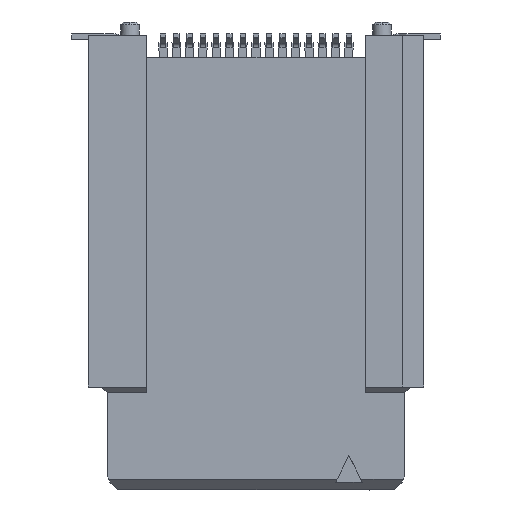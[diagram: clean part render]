
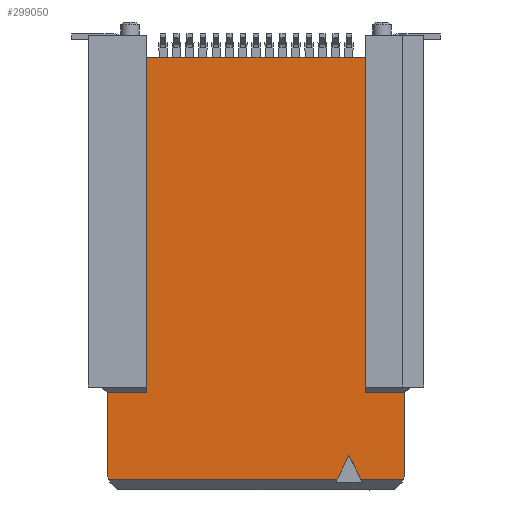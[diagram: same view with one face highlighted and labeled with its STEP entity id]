
A CAD part, front view. The second image highlights one B-rep face of the part: STEP entity #299050.
In plain terms, the highlighted planar face has unit normal (0, -1, 0).
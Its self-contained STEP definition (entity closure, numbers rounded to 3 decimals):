
#3000=CARTESIAN_POINT('',(8.88,-1.54,
-5.662));
#3010=DIRECTION('',(-1.,0.,0.));
#3020=VECTOR('',#3010,1.);
#3030=LINE('',#3000,#3020);
#3040=CARTESIAN_POINT('',(8.33,-1.54,
-5.662));
#3050=VERTEX_POINT('',#3040);
#3060=CARTESIAN_POINT('',(5.2,-1.54,
-5.662));
#3070=VERTEX_POINT('',#3060);
#3080=EDGE_CURVE('',#3050,#3070,#3030,.T.);
#16470=CARTESIAN_POINT('',(5.2,-1.54,
-6.412));
#16480=DIRECTION('',(0.,0.,1.));
#16490=VECTOR('',#16480,1.);
#16500=LINE('',#16470,#16490);
#16510=CARTESIAN_POINT('',(5.2,-1.54,
-7.162));
#16520=VERTEX_POINT('',#16510);
#16530=EDGE_CURVE('',#16520,#3070,#16500,.T.);
#87340=CARTESIAN_POINT('',(8.48,-1.54,
-5.722));
#87350=VERTEX_POINT('',#87340);
#87380=CARTESIAN_POINT('',(1.,-1.54,
-2.73));
#87390=DIRECTION('',(0.928,0.,
-0.371));
#87400=VECTOR('',#87390,1.);
#87410=LINE('',#87380,#87400);
#87420=EDGE_CURVE('',#3050,#87350,#87410,.T.);
#96580=CARTESIAN_POINT('',(7.58,-1.54,
-7.772));
#96590=VERTEX_POINT('',#96580);
#96620=CARTESIAN_POINT('',(0.,-1.54,
-11.562));
#96630=DIRECTION('',(-0.894,0.,
-0.447));
#96640=VECTOR('',#96630,1.);
#96650=LINE('',#96620,#96640);
#96660=CARTESIAN_POINT('',(8.48,-1.54,
-7.322));
#96670=VERTEX_POINT('',#96660);
#96680=EDGE_CURVE('',#96670,#96590,#96650,.T.);
#108050=CARTESIAN_POINT('',(-7.43,-1.54,
-7.162));
#108060=VERTEX_POINT('',#108050);
#108090=CARTESIAN_POINT('',(-7.43,-1.54,
0.));
#108100=DIRECTION('',(0.,0.,-1.));
#108110=VECTOR('',#108100,1.);
#108120=LINE('',#108090,#108110);
#108130=CARTESIAN_POINT('',(-7.43,-1.54,
-15.382));
#108140=VERTEX_POINT('',#108130);
#108150=EDGE_CURVE('',#108060,#108140,#108120,.T.);
#206690=CARTESIAN_POINT('',(8.48,-1.54,
-8.222));
#206700=VERTEX_POINT('',#206690);
#206730=CARTESIAN_POINT('',(0.,-1.54,
-3.982));
#206740=DIRECTION('',(0.894,0.,
-0.447));
#206750=VECTOR('',#206740,1.);
#206760=LINE('',#206730,#206750);
#206770=EDGE_CURVE('',#96590,#206700,#206760,.T.);
#207570=CARTESIAN_POINT('',(-6.43,-1.54,
-7.162));
#207580=DIRECTION('',(1.,0.,0.));
#207590=VECTOR('',#207580,1.);
#207600=LINE('',#207570,#207590);
#207610=EDGE_CURVE('',#108060,#16520,#207600,.T.);
#296280=CARTESIAN_POINT('',(5.2,-1.54,
-16.882));
#296290=VERTEX_POINT('',#296280);
#297280=CARTESIAN_POINT('',(5.2,-1.54,
-15.382));
#297290=VERTEX_POINT('',#297280);
#297320=CARTESIAN_POINT('',(5.2,-1.54,
-16.132));
#297330=DIRECTION('',(0.,0.,-1.));
#297340=VECTOR('',#297330,1.);
#297350=LINE('',#297320,#297340);
#297360=EDGE_CURVE('',#297290,#296290,#297350,.T.);
#298240=CARTESIAN_POINT('',(8.33,-1.54,
-16.882));
#298250=VERTEX_POINT('',#298240);
#298280=CARTESIAN_POINT('',(1.,-1.54,
-19.814));
#298290=DIRECTION('',(0.928,0.,
0.371));
#298300=VECTOR('',#298290,1.);
#298310=LINE('',#298280,#298300);
#298320=CARTESIAN_POINT('',(8.48,-1.54,
-16.822));
#298330=VERTEX_POINT('',#298320);
#298340=EDGE_CURVE('',#298250,#298330,#298310,.T.);
#298610=CARTESIAN_POINT('',(8.88,-1.54,
-16.882));
#298620=DIRECTION('',(-1.,0.,0.));
#298630=VECTOR('',#298620,1.);
#298640=LINE('',#298610,#298630);
#298650=EDGE_CURVE('',#298250,#296290,#298640,.T.);
#298700=CARTESIAN_POINT('',(-2.93,-1.54,
2.478));
#298710=DIRECTION('',(0.,-1.,0.));
#298720=DIRECTION('',(1.,0.,0.));
#298730=AXIS2_PLACEMENT_3D('',#298700,#298710,#298720);
#298740=PLANE('',#298730);
#298750=ORIENTED_EDGE('',*,*,#108150,.T.);
#298760=ORIENTED_EDGE('',*,*,#207610,.F.);
#298770=ORIENTED_EDGE('',*,*,#16530,.F.);
#298780=ORIENTED_EDGE('',*,*,#3080,.T.);
#298790=ORIENTED_EDGE('',*,*,#87420,.F.);
#298800=CARTESIAN_POINT('',(8.48,-1.54,
-29.452));
#298810=DIRECTION('',(0.,0.,-1.));
#298820=VECTOR('',#298810,1.);
#298830=LINE('',#298800,#298820);
#298840=EDGE_CURVE('',#87350,#96670,#298830,.T.);
#298850=ORIENTED_EDGE('',*,*,#298840,.F.);
#298860=ORIENTED_EDGE('',*,*,#96680,.F.);
#298870=ORIENTED_EDGE('',*,*,#206770,.F.);
#298880=CARTESIAN_POINT('',(8.48,-1.54,
-1.952));
#298890=DIRECTION('',(0.,0.,-1.));
#298900=VECTOR('',#298890,1.);
#298910=LINE('',#298880,#298900);
#298920=EDGE_CURVE('',#206700,#298330,#298910,.T.);
#298930=ORIENTED_EDGE('',*,*,#298920,.F.);
#298940=ORIENTED_EDGE('',*,*,#298340,.T.);
#298950=ORIENTED_EDGE('',*,*,#298650,.F.);
#298960=ORIENTED_EDGE('',*,*,#297360,.T.);
#298970=CARTESIAN_POINT('',(6.,-1.54,
-15.382));
#298980=DIRECTION('',(-1.,0.,0.));
#298990=VECTOR('',#298980,1.);
#299000=LINE('',#298970,#298990);
#299010=EDGE_CURVE('',#297290,#108140,#299000,.T.);
#299020=ORIENTED_EDGE('',*,*,#299010,.F.);
#299030=EDGE_LOOP('',(#299020,#298960,#298950,#298940,#298930,#298870,
#298860,#298850,#298790,#298780,#298770,#298760,#298750));
#299040=FACE_OUTER_BOUND('',#299030,.T.);
#299050=ADVANCED_FACE('',(#299040),#298740,.T.);
